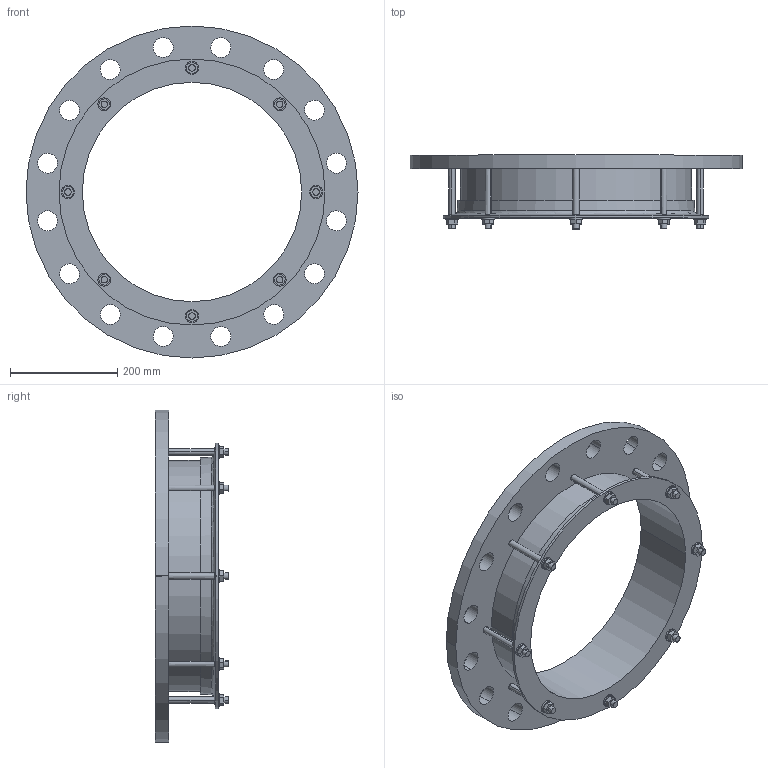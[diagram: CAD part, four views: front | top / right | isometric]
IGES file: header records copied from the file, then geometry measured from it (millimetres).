
Start section:  PTC IGES file: 406x400pn25.igs
Global section: file name: 406x400pn25.igs; native system: Creo Parametric by PTC Inc.; preprocessor: 2016130; author: mfairey; organization: Unknown; date: 20190404.094034; units: millimetre
Bounding box: 620 x 137.45 x 620 mm (x, y, z)
Surface area: 798484.4 mm2 (no closed solid volume)
Topology: 0 solids, 0 shells, 170 faces, 892 edges, 892 vertices
Faces by surface type: revolution 94, bspline 76
